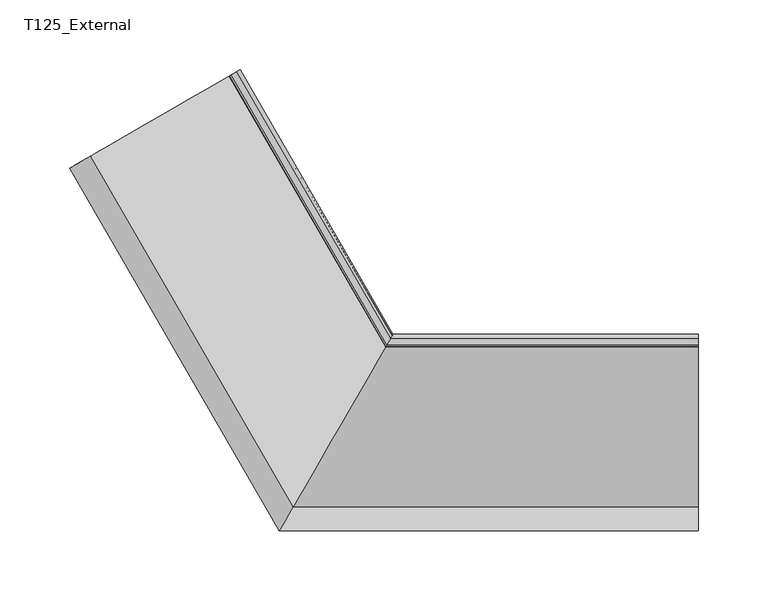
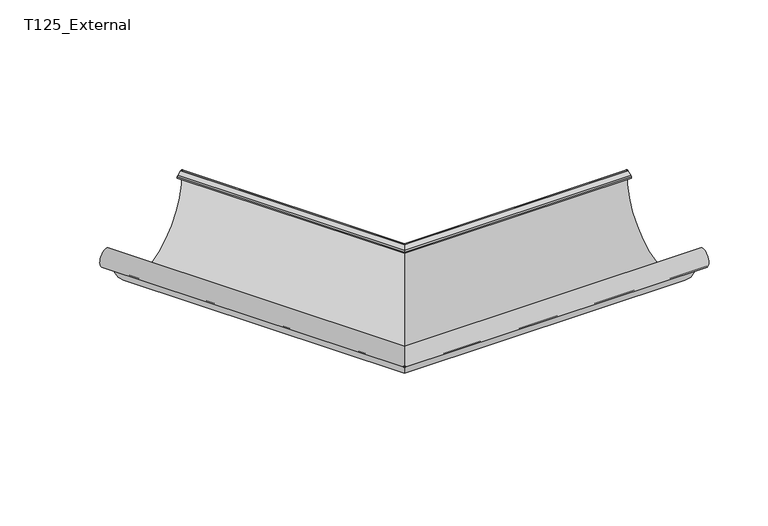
"""IFC4 building model written with IfcOpenShell, lengths in millimetres: proxy geometry, GROVIK_Gutter_Corner_Custom : T125_External."""

from ifc_helpers import new_model, si_unit, frame, origin, place, context, project, spatial, polyline, circle_curve, ellipse_curve, source, transform, mapped, element, save
from ifc_brep_helpers import plane_surface, cylinder_surface, revolved_surface, advanced_brep


def t125_external_c1dfabc4(model_context):
    return source(origin(), model_context, "Body", "AdvancedBrep", [
        advanced_brep(
        [(-4.746916, -8.2218996, -4.3767466), (-4.5776362, -7.9286985, -3.417729), (-4.2229788, -7.3144139, -2.7704081), (-1.5103199, -2.6159508, -1.0603074), (-0.7356225, -1.2741356, -2.0202437), (-71.5721194, -123.9665472, -11.1898563), (-77.2648607, -133.8266643, -20.54941), (-75.9351595, -131.5235543, -18.572593), (-75.9351595, -131.5235543, -12.0487098), (-76.5125098, -132.5235543, -12.0487098), (-76.5125098, -132.5235543, -18.572593), (-77.1773373, -133.6750695, -19.5609673), (-72.1465793, -124.9615409, -11.2897939), (-0.1581539, -0.2739306, -2.0), (-1.7077853, -2.9579709, -0.1206148), (-4.4204443, -7.656434, -1.8307155), (-5.129759, -8.8850033, -3.1253573), (-5.2990388, -9.1782044, -4.0843749), (-117.2164966, 184.668519, -4.0843749), (-116.962577, 184.8151195, -3.1253573), (-115.8986049, 185.4294041, -1.8307155), (-111.8296165, 187.7786357, -0.1206148), (-109.5051694, 189.1206558, -2.0), (-217.4878074, 126.7768507, -11.2897939), (-225.0339445, 122.4200864, -19.5609673), (-224.0367031, 122.995844, -18.572593), (-224.0367031, 122.995844, -12.0487098), (-223.1706777, 123.495844, -12.0487098), (-223.1706777, 123.495844, -18.572593), (-225.1652295, 122.344289, -20.54941), (-216.6261176, 127.2743475, -11.1898563), (-110.3713723, 188.6205533, -2.0202437), (-111.5334183, 187.9496457, -1.0603074), (-115.6024068, 185.6004142, -2.7704081), (-116.1343928, 185.2932719, -3.417729), (-116.3883124, 185.1466713, -4.3767466)],
        [
            (0, 1),
            (1, 2, ellipse_curve(frame((-4.0255134, -6.9723938, -3.7101007), z_axis=(-0.8660254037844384, 0.5000000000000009, 0.0), x_axis=(-0.5000000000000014, -0.8660254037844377, 0.0)), 1.1547005, 1.0)),
            (2, 3),
            (3, 4, ellipse_curve(frame((-1.3128545, -2.2739306, -2.0), z_axis=(-0.8660254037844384, 0.5000000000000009, 0.0), x_axis=(-0.5000000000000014, -0.8660254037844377, 0.0)), 1.1547005, 1.0)),
            (4, 5, ellipse_curve(frame((-36.2214031, -62.7373106, -5.0399641), z_axis=(-0.8660254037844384, 0.5000000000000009, 0.0), x_axis=(-0.5000000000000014, -0.8660254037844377, 0.0)), 71.0571656, 61.5373106)),
            (5, 6, ellipse_curve(frame((-76.5122014, -132.5230203, -12.0492723), z_axis=(0.8660254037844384, -0.5000000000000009, 0.0), x_axis=(0.5000000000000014, 0.8660254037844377, 0.0)), 9.929876, 8.5995249)),
            (6, 7, ellipse_curve(frame((-77.08982, -133.5234851, -18.572593), z_axis=(0.8660254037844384, -0.5000000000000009, 0.0), x_axis=(0.5000000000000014, 0.8660254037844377, 0.0)), 2.3093211, 1.9999308)),
            (7, 8),
            (8, 9),
            (9, 10),
            (10, 11, ellipse_curve(frame((-77.08982, -133.5234851, -18.572593), z_axis=(-0.8660254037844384, 0.5000000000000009, 0.0), x_axis=(-0.5000000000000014, -0.8660254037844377, 0.0)), 1.1546206, 0.9999308)),
            (11, 12, ellipse_curve(frame((-76.5122014, -132.5230203, -12.0492723), z_axis=(-0.8660254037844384, 0.5000000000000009, 0.0), x_axis=(-0.5000000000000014, -0.8660254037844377, 0.0)), 8.7751754, 7.5995249)),
            (12, 13, ellipse_curve(frame((-36.2214031, -62.7373106, -5.0399641), z_axis=(0.8660254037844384, -0.5000000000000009, 0.0), x_axis=(0.5000000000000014, 0.8660254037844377, 0.0)), 72.2118662, 62.5373106)),
            (13, 14, ellipse_curve(frame((-1.3128545, -2.2739306, -2.0), z_axis=(0.8660254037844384, -0.5000000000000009, 0.0), x_axis=(0.5000000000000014, 0.8660254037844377, 0.0)), 2.3094011, 2.0)),
            (14, 15),
            (15, 16, ellipse_curve(frame((-4.0255134, -6.9723938, -3.7101007), z_axis=(0.8660254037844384, -0.5000000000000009, 0.0), x_axis=(0.5000000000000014, 0.8660254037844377, 0.0)), 2.3094011, 2.0)),
            (16, 17),
            (17, 0),
            (18, 19),
            (19, 20, circle_curve(frame((-115.3062086, 185.7714243, -3.7101007), z_axis=(-0.49999999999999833, 0.8660254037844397, 0.0), x_axis=(-0.8660254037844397, -0.49999999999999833, 0.0)), 2.0)),
            (20, 21),
            (21, 22, circle_curve(frame((-111.2372202, 188.1206558, -2.0), z_axis=(-0.49999999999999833, 0.8660254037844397, 0.0), x_axis=(-0.8660254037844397, -0.49999999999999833, 0.0)), 2.0)),
            (22, 23, circle_curve(frame((-163.6000432, 157.8889659, -5.0399641), z_axis=(-0.49999999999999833, 0.8660254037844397, 0.0), x_axis=(-0.8660254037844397, -0.49999999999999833, 0.0)), 62.5373106)),
            (23, 24, circle_curve(frame((-224.0362407, 122.996111, -12.0492723), z_axis=(0.49999999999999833, -0.8660254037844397, 0.0), x_axis=(-0.8660254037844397, -0.49999999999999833, 0.0)), 7.5995249)),
            (24, 25, circle_curve(frame((-224.9026686, 122.4958786, -18.572593), z_axis=(0.49999999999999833, -0.8660254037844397, 0.0), x_axis=(-0.8660254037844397, -0.49999999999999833, 0.0)), 0.9999308)),
            (25, 26),
            (26, 27),
            (27, 28),
            (28, 29, circle_curve(frame((-224.9026686, 122.4958786, -18.572593), z_axis=(-0.49999999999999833, 0.8660254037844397, 0.0), x_axis=(-0.8660254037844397, -0.49999999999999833, 0.0)), 1.9999308)),
            (29, 30, circle_curve(frame((-224.0362407, 122.996111, -12.0492723), z_axis=(-0.49999999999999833, 0.8660254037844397, 0.0), x_axis=(-0.8660254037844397, -0.49999999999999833, 0.0)), 8.5995249)),
            (30, 31, circle_curve(frame((-163.6000432, 157.8889659, -5.0399641), z_axis=(0.49999999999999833, -0.8660254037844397, 0.0), x_axis=(-0.8660254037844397, -0.49999999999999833, 0.0)), 61.5373106)),
            (31, 32, circle_curve(frame((-111.2372202, 188.1206558, -2.0), z_axis=(0.49999999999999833, -0.8660254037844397, 0.0), x_axis=(-0.8660254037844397, -0.49999999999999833, 0.0)), 1.0)),
            (32, 33),
            (33, 34, circle_curve(frame((-115.3062086, 185.7714243, -3.7101007), z_axis=(0.49999999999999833, -0.8660254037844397, 0.0), x_axis=(-0.8660254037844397, -0.49999999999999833, 0.0)), 1.0)),
            (34, 35),
            (35, 18),
            (35, 0),
            (17, 18),
            (34, 1),
            (33, 2),
            (32, 3),
            (31, 4),
            (30, 5),
            (29, 6),
            (28, 7),
            (27, 8),
            (26, 9),
            (25, 10),
            (24, 11),
            (23, 12),
            (22, 13),
            (21, 14),
            (20, 15),
            (19, 16),
        ],
        [
            plane_surface(frame((-115.4700538, -200.0, 250.0), z_axis=(0.8660254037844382, -0.5000000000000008, 0.0), x_axis=(0.0, 0.0, -1.0))),
            plane_surface(frame((-109.4411436, 189.1576211, 0.0), z_axis=(-0.49999999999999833, 0.8660254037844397, 0.0), x_axis=(0.0, 0.0, 1.0))),
            plane_surface(frame((-117.2164966, 184.668519, -4.0843749), z_axis=(-0.2532013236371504, -0.14618585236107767, -0.956304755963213), x_axis=(0.49999999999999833, -0.8660254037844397, 0.0))),
            plane_surface(frame((-116.3883124, 185.1466713, -4.3767466), z_axis=(0.8281842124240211, 0.4781523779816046, -0.29237170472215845), x_axis=(0.49999999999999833, -0.8660254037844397, 0.0))),
            revolved_surface(polyline([(-4.602863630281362, -7.97239375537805, -3.7101007), (-116.17223400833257, 185.2714243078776, -3.7101007)]), (-115.3062086, 185.7714243, -3.7101007), (0.49999999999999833, -0.8660254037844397, 0.0)),
            plane_surface(frame((-115.6024068, 185.6004142, -2.7704081), z_axis=(0.29619813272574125, 0.1710100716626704, -0.9396926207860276), x_axis=(0.49999999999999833, -0.8660254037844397, 0.0))),
            revolved_surface(polyline([(-1.8902047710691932, -3.273930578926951, -2.0), (-112.10324560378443, 187.6206558, -2.0)]), (-111.2372202, 188.1206558, -2.0), (0.49999999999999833, -0.8660254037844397, 0.0)),
            revolved_surface(polyline([(-71.74998593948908, -124.2746211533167, -5.0399641), (-216.89291746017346, 127.1203106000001, -5.0399641)]), (-163.6000432, 157.8889659, -5.0399641), (0.49999999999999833, -0.8660254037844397, 0.0)),
            cylinder_surface(frame((-224.0362407, 122.996111, -12.0492723), z_axis=(-0.49999999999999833, 0.8660254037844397, 0.0), x_axis=(-0.8660254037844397, -0.49999999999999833, 0.0)), 8.5995249),
            cylinder_surface(frame((-224.9026686, 122.4958786, -18.572593), z_axis=(-0.49999999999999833, 0.8660254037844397, 0.0), x_axis=(-0.8660254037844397, -0.49999999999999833, 0.0)), 1.9999308),
            plane_surface(frame((-223.1706777, 123.495844, -18.572593), z_axis=(0.8660254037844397, 0.49999999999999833, 0.0), x_axis=(0.49999999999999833, -0.8660254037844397, 0.0))),
            plane_surface(frame((-223.1706777, 123.495844, -12.0487098), z_axis=(0.0, 0.0, 1.0000000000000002), x_axis=(0.49999999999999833, -0.8660254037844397, 0.0))),
            plane_surface(frame((-224.0367031, 122.995844, -12.0487098), z_axis=(-0.8660254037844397, -0.49999999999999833, 0.0), x_axis=(0.49999999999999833, -0.8660254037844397, 0.0))),
            revolved_surface(polyline([(-77.6671303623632, -134.5234159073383, -18.572593), (-225.7686340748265, 121.9959132, -18.572593)]), (-224.9026686, 122.4958786, -18.572593), (0.49999999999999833, -0.8660254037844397, 0.0)),
            revolved_surface(polyline([(-80.89978921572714, -140.12254518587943, -12.0492723), (-230.6176223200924, 119.19634855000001, -12.0492723)]), (-224.0362407, 122.996111, -12.0492723), (0.49999999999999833, -0.8660254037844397, 0.0)),
            cylinder_surface(frame((-163.6000432, 157.8889659, -5.0399641), z_axis=(-0.49999999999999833, 0.8660254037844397, 0.0), x_axis=(-0.8660254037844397, -0.49999999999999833, 0.0)), 62.5373106),
            cylinder_surface(frame((-111.2372202, 188.1206558, -2.0), z_axis=(-0.49999999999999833, 0.8660254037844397, 0.0), x_axis=(-0.8660254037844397, -0.49999999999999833, 0.0)), 2.0),
            plane_surface(frame((-111.8296165, 187.7786357, -0.1206148), z_axis=(-0.29619813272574, -0.1710100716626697, 0.939692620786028), x_axis=(0.49999999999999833, -0.8660254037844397, 0.0))),
            cylinder_surface(frame((-115.3062086, 185.7714243, -3.7101007), z_axis=(-0.49999999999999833, 0.8660254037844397, 0.0), x_axis=(-0.8660254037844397, -0.49999999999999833, 0.0)), 2.0),
            plane_surface(frame((-116.962577, 184.8151195, -3.1253573), z_axis=(-0.8281842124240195, -0.47815237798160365, 0.2923717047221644), x_axis=(0.49999999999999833, -0.8660254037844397, 0.0))),
        ],
        [
            (0, [[1, 2, 3, 4, 5, 6, 7, 8, 9, 10, 11, 12, 13, 14, 15, 16, 17, 18]]),
            (1, [[19, 20, 21, 22, 23, 24, 25, 26, 27, 28, 29, 30, 31, 32, 33, 34, 35, 36]]),
            (2, [[37, -18, 38, -36]]),
            (3, [[39, -1, -37, -35]]),
            (4, [[40, -2, -39, -34]]),
            (5, [[41, -3, -40, -33]]),
            (6, [[42, -4, -41, -32]]),
            (7, [[43, -5, -42, -31]]),
            (8, [[44, -6, -43, -30]]),
            (9, [[45, -7, -44, -29]]),
            (10, [[46, -8, -45, -28]]),
            (11, [[47, -9, -46, -27]]),
            (12, [[48, -10, -47, -26]]),
            (13, [[49, -11, -48, -25]]),
            (14, [[50, -12, -49, -24]]),
            (15, [[51, -13, -50, -23]]),
            (16, [[52, -14, -51, -22]]),
            (17, [[53, -15, -52, -21]]),
            (18, [[54, -16, -53, -20]]),
            (19, [[-38, -17, -54, -19]]),
        ],
    ),
        advanced_brep(
        [(218.535877, -9.1782044, -4.0843749), (218.535877, -8.2218996, -4.3767466), (218.535877, -7.9286985, -3.417729), (218.535877, -7.3144139, -2.7704081), (218.535877, -2.6159508, -1.0603074), (218.535877, -1.2741356, -2.0202437), (218.535877, -123.9665472, -11.1898563), (218.535877, -133.8266643, -20.54941), (218.535877, -131.5235543, -18.572593), (218.535877, -131.5235543, -12.0487098), (218.535877, -132.5235543, -12.0487098), (218.535877, -132.5235543, -18.572593), (218.535877, -133.6750695, -19.5609673), (218.535877, -124.9615409, -11.2897939), (218.535877, -0.2739306, -2.0), (218.535877, -2.9579709, -0.1206148), (218.535877, -7.656434, -1.8307155), (218.535877, -8.8850033, -3.1253573), (-5.2990388, -9.1782044, -4.0843749), (-4.746916, -8.2218996, -4.3767466), (-4.5776362, -7.9286985, -3.417729), (-4.2229788, -7.3144139, -2.7704081), (-1.5103199, -2.6159508, -1.0603074), (-0.7356225, -1.2741356, -2.0202437), (-71.5721194, -123.9665472, -11.1898563), (-77.2648607, -133.8266643, -20.54941), (-75.9351595, -131.5235543, -18.572593), (-75.9351595, -131.5235543, -12.0487098), (-76.5125098, -132.5235543, -12.0487098), (-76.5125098, -132.5235543, -18.572593), (-77.1773373, -133.6750695, -19.5609673), (-72.1465793, -124.9615409, -11.2897939), (-0.1581539, -0.2739306, -2.0), (-1.7077853, -2.9579709, -0.1206148), (-4.4204443, -7.656434, -1.8307155), (-5.129759, -8.8850033, -3.1253573)],
        [
            (0, 1),
            (1, 2),
            (2, 3, circle_curve(frame((218.535877, -6.9723938, -3.7101007), z_axis=(-1.0, 0.0, 0.0), x_axis=(0.0, -1.0, 0.0)), 1.0)),
            (3, 4),
            (4, 5, circle_curve(frame((218.535877, -2.2739306, -2.0), z_axis=(-1.0, 0.0, 0.0), x_axis=(0.0, -1.0, 0.0)), 1.0)),
            (5, 6, circle_curve(frame((218.535877, -62.7373106, -5.0399641), z_axis=(-1.0, 0.0, 0.0), x_axis=(0.0, -1.0, 0.0)), 61.5373106)),
            (6, 7, circle_curve(frame((218.535877, -132.5230203, -12.0492723), z_axis=(1.0, 0.0, 0.0), x_axis=(0.0, -1.0, 0.0)), 8.5995249)),
            (7, 8, circle_curve(frame((218.535877, -133.5234851, -18.572593), z_axis=(1.0, 0.0, 0.0), x_axis=(0.0, -1.0, 0.0)), 1.9999308)),
            (8, 9),
            (9, 10),
            (10, 11),
            (11, 12, circle_curve(frame((218.535877, -133.5234851, -18.572593), z_axis=(-1.0, 0.0, 0.0), x_axis=(0.0, -1.0, 0.0)), 0.9999308)),
            (12, 13, circle_curve(frame((218.535877, -132.5230203, -12.0492723), z_axis=(-1.0, 0.0, 0.0), x_axis=(0.0, -1.0, 0.0)), 7.5995249)),
            (13, 14, circle_curve(frame((218.535877, -62.7373106, -5.0399641), z_axis=(1.0, 0.0, 0.0), x_axis=(0.0, -1.0, 0.0)), 62.5373106)),
            (14, 15, circle_curve(frame((218.535877, -2.2739306, -2.0), z_axis=(1.0, 0.0, 0.0), x_axis=(0.0, -1.0, 0.0)), 2.0)),
            (15, 16),
            (16, 17, circle_curve(frame((218.535877, -6.9723938, -3.7101007), z_axis=(1.0, 0.0, 0.0), x_axis=(0.0, -1.0, 0.0)), 2.0)),
            (17, 0),
            (0, 18),
            (18, 19),
            (19, 1),
            (19, 20),
            (20, 2),
            (20, 21, ellipse_curve(frame((-4.0255134, -6.9723938, -3.7101007), z_axis=(-0.8660254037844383, 0.5000000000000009, 0.0), x_axis=(-0.5000000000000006, -0.8660254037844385, 0.0)), 1.1547005, 1.0)),
            (21, 3),
            (21, 22),
            (22, 4),
            (22, 23, ellipse_curve(frame((-1.3128545, -2.2739306, -2.0), z_axis=(-0.8660254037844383, 0.5000000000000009, 0.0), x_axis=(-0.5000000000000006, -0.8660254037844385, 0.0)), 1.1547005, 1.0)),
            (23, 5),
            (23, 24, ellipse_curve(frame((-36.2214031, -62.7373106, -5.0399641), z_axis=(-0.8660254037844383, 0.5000000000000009, 0.0), x_axis=(-0.5000000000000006, -0.8660254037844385, 0.0)), 71.0571656, 61.5373106)),
            (24, 6),
            (24, 25, ellipse_curve(frame((-76.5122014, -132.5230203, -12.0492723), z_axis=(0.8660254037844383, -0.5000000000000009, 0.0), x_axis=(0.5000000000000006, 0.8660254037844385, 0.0)), 9.929876, 8.5995249)),
            (25, 7),
            (25, 26, ellipse_curve(frame((-77.08982, -133.5234851, -18.572593), z_axis=(0.8660254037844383, -0.5000000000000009, 0.0), x_axis=(0.5000000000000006, 0.8660254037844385, 0.0)), 2.3093211, 1.9999308)),
            (26, 8),
            (26, 27),
            (27, 9),
            (27, 28),
            (28, 10),
            (28, 29),
            (29, 11),
            (29, 30, ellipse_curve(frame((-77.08982, -133.5234851, -18.572593), z_axis=(-0.8660254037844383, 0.5000000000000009, 0.0), x_axis=(-0.5000000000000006, -0.8660254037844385, 0.0)), 1.1546206, 0.9999308)),
            (30, 12),
            (30, 31, ellipse_curve(frame((-76.5122014, -132.5230203, -12.0492723), z_axis=(-0.8660254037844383, 0.5000000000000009, 0.0), x_axis=(-0.5000000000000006, -0.8660254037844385, 0.0)), 8.7751754, 7.5995249)),
            (31, 13),
            (31, 32, ellipse_curve(frame((-36.2214031, -62.7373106, -5.0399641), z_axis=(0.8660254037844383, -0.5000000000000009, 0.0), x_axis=(0.5000000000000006, 0.8660254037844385, 0.0)), 72.2118662, 62.5373106)),
            (32, 14),
            (32, 33, ellipse_curve(frame((-1.3128545, -2.2739306, -2.0), z_axis=(0.8660254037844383, -0.5000000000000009, 0.0), x_axis=(0.5000000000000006, 0.8660254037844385, 0.0)), 2.3094011, 2.0)),
            (33, 15),
            (33, 34),
            (34, 16),
            (34, 35, ellipse_curve(frame((-4.0255134, -6.9723938, -3.7101007), z_axis=(0.8660254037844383, -0.5000000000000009, 0.0), x_axis=(0.5000000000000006, 0.8660254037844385, 0.0)), 2.3094011, 2.0)),
            (35, 17),
            (35, 18),
        ],
        [
            plane_surface(frame((218.535877, -0.2, 0.0), z_axis=(1.0, 0.0, 0.0), x_axis=(0.0, 0.0, 1.0))),
            plane_surface(frame((218.535877, -9.1782044, -4.0843749), z_axis=(0.0, -0.2923717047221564, -0.956304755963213), x_axis=(-1.0, 0.0, 0.0))),
            plane_surface(frame((218.535877, -8.2218996, -4.3767466), z_axis=(0.0, 0.9563047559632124, -0.2923717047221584), x_axis=(-1.0, 0.0, 0.0))),
            revolved_surface(polyline([(-4.602863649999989, -7.9723938, -3.7101007), (218.535877, -7.9723938, -3.7101007)]), (218.535877, -6.9723938, -3.7101007), (-1.0, 0.0, 0.0)),
            plane_surface(frame((218.535877, -7.3144139, -2.7704081), z_axis=(0.0, 0.342020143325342, -0.9396926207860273), x_axis=(-1.0, 0.0, 0.0))),
            revolved_surface(polyline([(-1.890204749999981, -3.2739306, -2.0), (218.535877, -3.2739306, -2.0)]), (218.535877, -2.2739306, -2.0), (-1.0, 0.0, 0.0)),
            revolved_surface(polyline([(-71.74998590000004, -124.2746212, -5.0399641), (218.535877, -124.2746212, -5.0399641)]), (218.535877, -62.7373106, -5.0399641), (-1.0, 0.0, 0.0)),
            cylinder_surface(frame((218.535877, -132.5230203, -12.0492723), z_axis=(1.0, 0.0, 0.0), x_axis=(0.0, -1.0, 0.0)), 8.5995249),
            cylinder_surface(frame((218.535877, -133.5234851, -18.572593), z_axis=(1.0, 0.0, 0.0), x_axis=(0.0, -1.0, 0.0)), 1.9999308),
            plane_surface(frame((218.535877, -131.5235543, -18.572593), z_axis=(0.0, 1.0, 0.0), x_axis=(-1.0, 0.0, 0.0))),
            plane_surface(frame((218.535877, -131.5235543, -12.0487098), z_axis=(0.0, 0.0, 1.0), x_axis=(-1.0, 0.0, 0.0))),
            plane_surface(frame((218.535877, -132.5235543, -12.0487098), z_axis=(0.0, -1.0, 0.0), x_axis=(-1.0, 0.0, 0.0))),
            revolved_surface(polyline([(-77.66713030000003, -134.52341589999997, -18.572593), (218.535877, -134.52341589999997, -18.572593)]), (218.535877, -133.5234851, -18.572593), (-1.0, 0.0, 0.0)),
            revolved_surface(polyline([(-80.89978909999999, -140.12254520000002, -12.0492723), (218.535877, -140.12254520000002, -12.0492723)]), (218.535877, -132.5230203, -12.0492723), (-1.0, 0.0, 0.0)),
            cylinder_surface(frame((218.535877, -62.7373106, -5.0399641), z_axis=(1.0, 0.0, 0.0), x_axis=(0.0, -1.0, 0.0)), 62.5373106),
            cylinder_surface(frame((218.535877, -2.2739306, -2.0), z_axis=(1.0, 0.0, 0.0), x_axis=(0.0, -1.0, 0.0)), 2.0),
            plane_surface(frame((218.535877, -2.9579709, -0.1206148), z_axis=(0.0, -0.3420201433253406, 0.9396926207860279), x_axis=(-1.0, 0.0, 0.0))),
            cylinder_surface(frame((218.535877, -6.9723938, -3.7101007), z_axis=(1.0, 0.0, 0.0), x_axis=(0.0, -1.0, 0.0)), 2.0),
            plane_surface(frame((218.535877, -8.8850033, -3.1253573), z_axis=(0.0, -0.9563047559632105, 0.29237170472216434), x_axis=(-1.0, 0.0, 0.0))),
            plane_surface(frame((-115.4700538, -200.0, 250.0), z_axis=(-0.8660254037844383, 0.5000000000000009, 0.0), x_axis=(0.0, 0.0, -1.0))),
        ],
        [
            (0, [[1, 2, 3, 4, 5, 6, 7, 8, 9, 10, 11, 12, 13, 14, 15, 16, 17, 18]]),
            (1, [[-1, 19, 20, 21]]),
            (2, [[-2, -21, 22, 23]]),
            (3, [[-3, -23, 24, 25]]),
            (4, [[-4, -25, 26, 27]]),
            (5, [[-5, -27, 28, 29]]),
            (6, [[-6, -29, 30, 31]]),
            (7, [[-7, -31, 32, 33]]),
            (8, [[-8, -33, 34, 35]]),
            (9, [[-9, -35, 36, 37]]),
            (10, [[-10, -37, 38, 39]]),
            (11, [[-11, -39, 40, 41]]),
            (12, [[-12, -41, 42, 43]]),
            (13, [[-13, -43, 44, 45]]),
            (14, [[-14, -45, 46, 47]]),
            (15, [[-15, -47, 48, 49]]),
            (16, [[-16, -49, 50, 51]]),
            (17, [[-17, -51, 52, 53]]),
            (18, [[-18, -53, 54, -19]]),
            (19, [[-20, -54, -52, -50, -48, -46, -44, -42, -40, -38, -36, -34, -32, -30, -28, -26, -24, -22]]),
        ],
    ),
    ])


if __name__ == "__main__":
    model = new_model("IFC4")
    model_context = context("Model", 3, world=origin())
    ifc_project = project(units=[si_unit("LENGTHUNIT", "METRE", prefix="MILLI")], contexts=[model_context])
    site = spatial("IfcSite", under=ifc_project)
    building = spatial("IfcBuilding", under=site)
    placement = place(None, origin())
    t125_external_shape = t125_external_c1dfabc4(model_context)
    element("IfcBuildingElementProxy", 1, Name="GROVIK_Gutter_Corner_Custom : T125_External", ObjectType="GROVIK_Gutter_Corner_Custom : T125_External", at=placement, inside=building, context=model_context, shape_type="MappedRepresentation", body=[
        mapped(t125_external_shape, transform((0.0, 0.0, 0.0), x_axis=(1.0, 0.0, 0.0), y_axis=(0.0, 1.0, 0.0), z_axis=(0.0, 0.0, 1.0))),
    ])
    save(model, "model.ifc")
